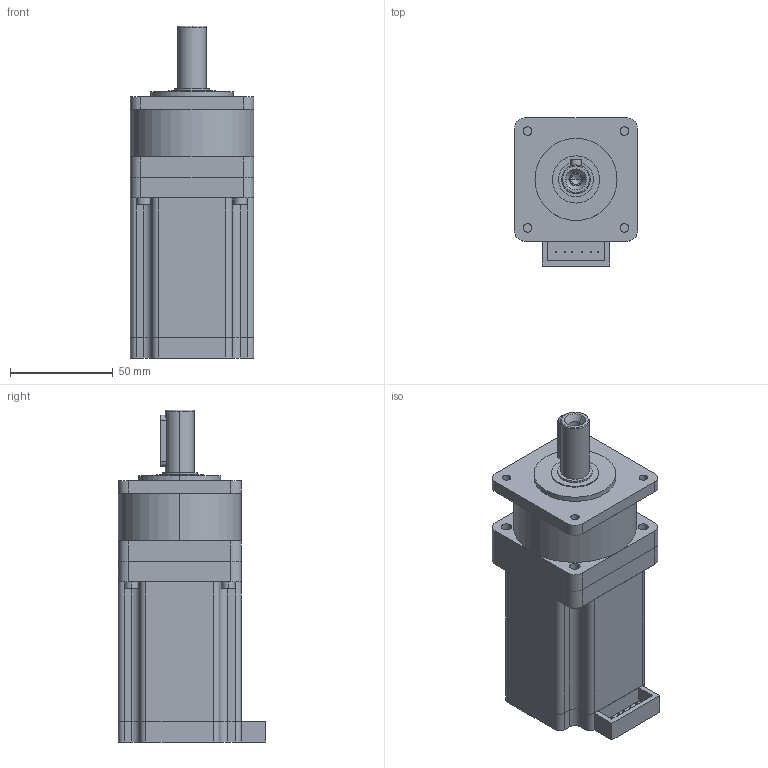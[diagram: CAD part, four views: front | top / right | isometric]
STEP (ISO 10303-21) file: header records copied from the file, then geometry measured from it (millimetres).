
FILE_DESCRIPTION (( 'STEP AP203' ), '1' );
FILE_NAME ('60PG008-D40-0488.STEP', '2019-09-21T07:08:59', ( 'China' ), ( 'Home' ), 'SwSTEP 2.0', 'SolidWorks 2016', '' );
FILE_SCHEMA (( 'CONFIG_CONTROL_DESIGN' ));
Length unit declared in the file: millimetre
Products named in the file (1): 60PG008-D40-0488
Bounding box: 60 x 72 x 161.8 mm (x, y, z)
Volume: 414353.2 mm3; surface area: 67379.4 mm2
Topology: 10 solids, 10 shells, 217 faces, 542 edges, 357 vertices
Faces by surface type: plane 131, cylinder 78, cone 6, torus 2
Entity records: 6631 total; most frequent: CARTESIAN_POINT 1176, DIRECTION 1140, ORIENTED_EDGE 1080, EDGE_CURVE 540, AXIS2_PLACEMENT_3D 385, LINE 370, VECTOR 370, VERTEX_POINT 357
